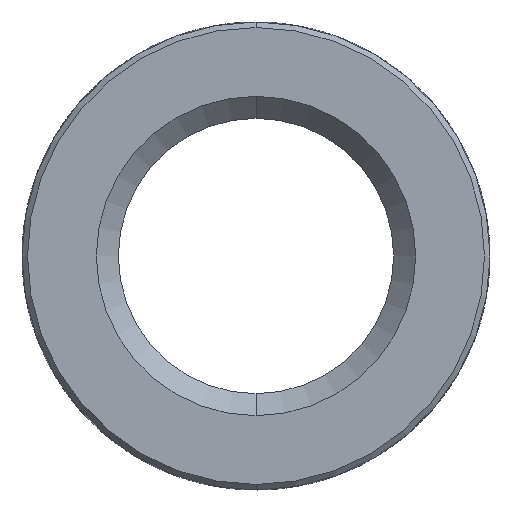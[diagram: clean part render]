
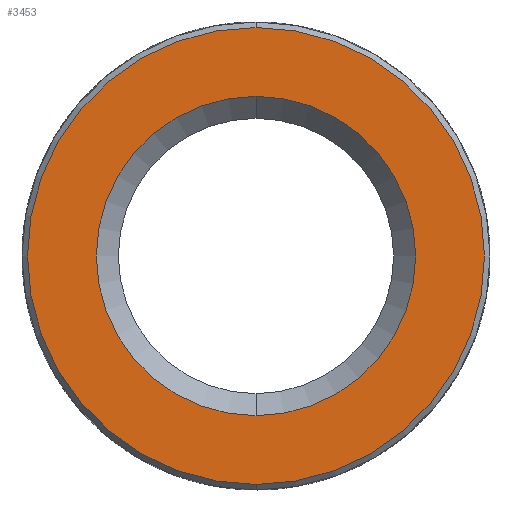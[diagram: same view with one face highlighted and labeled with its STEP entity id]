
A CAD part, front view. The second image highlights one B-rep face of the part: STEP entity #3453.
In plain terms, the highlighted planar face has unit normal (0, -1, 0).
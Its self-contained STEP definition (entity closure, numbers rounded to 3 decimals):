
#107 = DIRECTION ( 'NONE',  ( 0., 0., -1. ) ) ;
#121 = VERTEX_POINT ( 'NONE', #806 ) ;
#282 = AXIS2_PLACEMENT_3D ( 'NONE', #2095, #345, #2386 ) ;
#285 = CARTESIAN_POINT ( 'NONE',  ( 0., -7.3, -2.9 ) ) ;
#345 = DIRECTION ( 'NONE',  ( 0., 1., 0. ) ) ;
#388 = CARTESIAN_POINT ( 'NONE',  ( 0., -7.3, 0. ) ) ;
#494 = ORIENTED_EDGE ( 'NONE', *, *, #2915, .T. ) ;
#625 = CIRCLE ( 'NONE', #1609, 4.15 ) ;
#665 = ORIENTED_EDGE ( 'NONE', *, *, #1271, .T. ) ;
#794 = CARTESIAN_POINT ( 'NONE',  ( 0., -7.3, 4.25 ) ) ;
#801 = PLANE ( 'NONE',  #1506 ) ;
#806 = CARTESIAN_POINT ( 'NONE',  ( 0., -7.3, 4.15 ) ) ;
#985 = CIRCLE ( 'NONE', #282, 2.9 ) ;
#1169 = DIRECTION ( 'NONE',  ( 0., -1., 0. ) ) ;
#1222 = EDGE_LOOP ( 'NONE', ( #665, #494 ) ) ;
#1269 = ORIENTED_EDGE ( 'NONE', *, *, #2208, .T. ) ;
#1271 = EDGE_CURVE ( 'NONE', #3017, #1862, #985, .T. ) ;
#1415 = FACE_OUTER_BOUND ( 'NONE', #1962, .T. ) ;
#1506 = AXIS2_PLACEMENT_3D ( 'NONE', #794, #2267, #3685 ) ;
#1598 = DIRECTION ( 'NONE',  ( 0., 1., 0. ) ) ;
#1609 = AXIS2_PLACEMENT_3D ( 'NONE', #2648, #1169, #3470 ) ;
#1862 = VERTEX_POINT ( 'NONE', #3003 ) ;
#1896 = EDGE_CURVE ( 'NONE', #121, #2449, #2534, .T. ) ;
#1962 = EDGE_LOOP ( 'NONE', ( #3177, #1269 ) ) ;
#2095 = CARTESIAN_POINT ( 'NONE',  ( 0., -7.3, 0. ) ) ;
#2208 = EDGE_CURVE ( 'NONE', #2449, #121, #625, .T. ) ;
#2267 = DIRECTION ( 'NONE',  ( 0., -1., 0. ) ) ;
#2386 = DIRECTION ( 'NONE',  ( 0., 0., -1. ) ) ;
#2449 = VERTEX_POINT ( 'NONE', #2622 ) ;
#2534 = CIRCLE ( 'NONE', #3705, 4.15 ) ;
#2622 = CARTESIAN_POINT ( 'NONE',  ( 0., -7.3, -4.15 ) ) ;
#2624 = CIRCLE ( 'NONE', #3465, 2.9 ) ;
#2648 = CARTESIAN_POINT ( 'NONE',  ( 0., -7.3, 0. ) ) ;
#2786 = CARTESIAN_POINT ( 'NONE',  ( 0., -7.3, 0. ) ) ;
#2915 = EDGE_CURVE ( 'NONE', #1862, #3017, #2624, .T. ) ;
#3003 = CARTESIAN_POINT ( 'NONE',  ( 0., -7.3, 2.9 ) ) ;
#3017 = VERTEX_POINT ( 'NONE', #285 ) ;
#3055 = FACE_BOUND ( 'NONE', #1222, .T. ) ;
#3177 = ORIENTED_EDGE ( 'NONE', *, *, #1896, .T. ) ;
#3453 = ADVANCED_FACE ( 'NONE', ( #1415, #3055 ), #801, .T. ) ;
#3465 = AXIS2_PLACEMENT_3D ( 'NONE', #2786, #1598, #3627 ) ;
#3470 = DIRECTION ( 'NONE',  ( 0., 0., -1. ) ) ;
#3622 = DIRECTION ( 'NONE',  ( 0., -1., 0. ) ) ;
#3627 = DIRECTION ( 'NONE',  ( 0., 0., -1. ) ) ;
#3685 = DIRECTION ( 'NONE',  ( 0., 0., -1. ) ) ;
#3705 = AXIS2_PLACEMENT_3D ( 'NONE', #388, #3622, #107 ) ;
